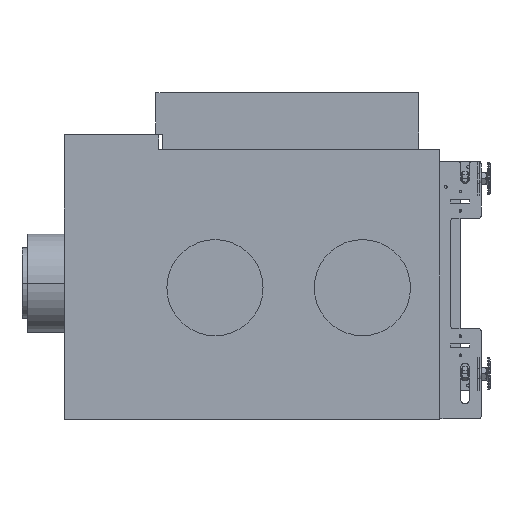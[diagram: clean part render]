
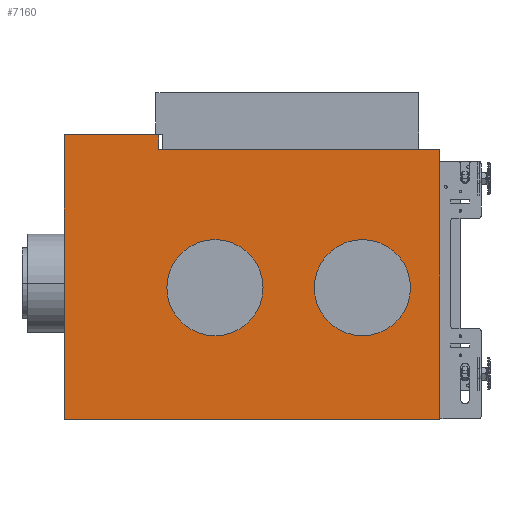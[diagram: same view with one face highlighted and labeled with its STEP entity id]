
A CAD part, left-side view. The second image highlights one B-rep face of the part: STEP entity #7160.
In plain terms, the highlighted planar face has unit normal (-1, 0, 0).
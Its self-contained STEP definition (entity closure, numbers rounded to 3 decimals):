
#4670=CARTESIAN_POINT('',(5536.25,542.,
231.5));
#4680=VERTEX_POINT('',#4670);
#4830=CARTESIAN_POINT('',(5536.25,395.,231.5));
#4840=VERTEX_POINT('',#4830);
#4870=CARTESIAN_POINT('',(5536.25,542.,
231.5));
#4880=DIRECTION('',(0.,-1.,0.));
#4890=VECTOR('',#4880,1.);
#4900=LINE('',#4870,#4890);
#4910=EDGE_CURVE('',#4680,#4840,#4900,.T.);
#5820=CARTESIAN_POINT('',(5536.25,542.,-212.5));
#5830=VERTEX_POINT('',#5820);
#5860=CARTESIAN_POINT('',(5536.25,542.,-212.5));
#5870=DIRECTION('',(0.,-1.,0.));
#5880=VECTOR('',#5870,1.);
#5890=LINE('',#5860,#5880);
#5900=CARTESIAN_POINT('',(5536.25,-44.,
-212.5));
#5910=VERTEX_POINT('',#5900);
#5920=EDGE_CURVE('',#5830,#5910,#5890,.T.);
#6490=CARTESIAN_POINT('',(5536.25,542.,
231.5));
#6500=DIRECTION('',(1.,0.,0.));
#6510=DIRECTION('',(0.,0.,1.));
#6520=AXIS2_PLACEMENT_3D('',#6490,#6500,#6510);
#6530=PLANE('',#6520);
#6540=CARTESIAN_POINT('',(5536.25,542.,
231.5));
#6550=DIRECTION('',(0.,0.,-1.));
#6560=VECTOR('',#6550,1.);
#6570=LINE('',#6540,#6560);
#6580=EDGE_CURVE('',#4680,#5830,#6570,.T.);
#6590=ORIENTED_EDGE('',*,*,#6580,.T.);
#6600=ORIENTED_EDGE('',*,*,#4910,.F.);
#6610=CARTESIAN_POINT('',(5536.25,395.,231.5));
#6620=DIRECTION('',(0.,0.,-1.));
#6630=VECTOR('',#6620,1.);
#6640=LINE('',#6610,#6630);
#6650=CARTESIAN_POINT('',(5536.25,395.,208.5));
#6660=VERTEX_POINT('',#6650);
#6670=EDGE_CURVE('',#4840,#6660,#6640,.T.);
#6680=ORIENTED_EDGE('',*,*,#6670,.F.);
#6690=CARTESIAN_POINT('',(5536.25,-44.,
208.5));
#6700=DIRECTION('',(0.,1.,0.));
#6710=VECTOR('',#6700,1.);
#6720=LINE('',#6690,#6710);
#6730=CARTESIAN_POINT('',(5536.25,-44.,
208.5));
#6740=VERTEX_POINT('',#6730);
#6750=EDGE_CURVE('',#6740,#6660,#6720,.T.);
#6760=ORIENTED_EDGE('',*,*,#6750,.T.);
#6770=CARTESIAN_POINT('',(5536.25,-44.,
9.146));
#6780=DIRECTION('',(0.,0.,-1.));
#6790=VECTOR('',#6780,1.);
#6800=LINE('',#6770,#6790);
#6810=EDGE_CURVE('',#6740,#5910,#6800,.T.);
#6820=ORIENTED_EDGE('',*,*,#6810,.F.);
#6830=ORIENTED_EDGE('',*,*,#5920,.T.);
#6840=EDGE_LOOP('',(#6830,#6820,#6760,#6680,#6600,#6590));
#6850=FACE_OUTER_BOUND('',#6840,.T.);
#6860=CARTESIAN_POINT('',(5536.25,307.,
-6.892));
#6870=DIRECTION('',(-1.,0.,0.));
#6880=DIRECTION('',(0.,0.,1.));
#6890=AXIS2_PLACEMENT_3D('',#6860,#6870,#6880);
#6900=CIRCLE('',#6890,75.);
#6910=CARTESIAN_POINT('',(5536.25,307.,
-81.892));
#6920=VERTEX_POINT('',#6910);
#6930=CARTESIAN_POINT('',(5536.25,307.,
68.108));
#6940=VERTEX_POINT('',#6930);
#6950=EDGE_CURVE('',#6920,#6940,#6900,.T.);
#6960=ORIENTED_EDGE('',*,*,#6950,.F.);
#6970=EDGE_CURVE('',#6940,#6920,#6900,.T.);
#6980=ORIENTED_EDGE('',*,*,#6970,.F.);
#6990=EDGE_LOOP('',(#6980,#6960));
#7000=FACE_BOUND('',#6990,.T.);
#7010=CARTESIAN_POINT('',(5536.25,77.,
-6.892));
#7020=DIRECTION('',(-1.,0.,0.));
#7030=DIRECTION('',(0.,0.,1.));
#7040=AXIS2_PLACEMENT_3D('',#7010,#7020,#7030);
#7050=CIRCLE('',#7040,75.);
#7060=CARTESIAN_POINT('',(5536.25,77.,
-81.892));
#7070=VERTEX_POINT('',#7060);
#7080=CARTESIAN_POINT('',(5536.25,77.,
68.108));
#7090=VERTEX_POINT('',#7080);
#7100=EDGE_CURVE('',#7070,#7090,#7050,.T.);
#7110=ORIENTED_EDGE('',*,*,#7100,.F.);
#7120=EDGE_CURVE('',#7090,#7070,#7050,.T.);
#7130=ORIENTED_EDGE('',*,*,#7120,.F.);
#7140=EDGE_LOOP('',(#7130,#7110));
#7150=FACE_BOUND('',#7140,.T.);
#7160=ADVANCED_FACE('',(#6850,#7000,#7150),#6530,.F.);
